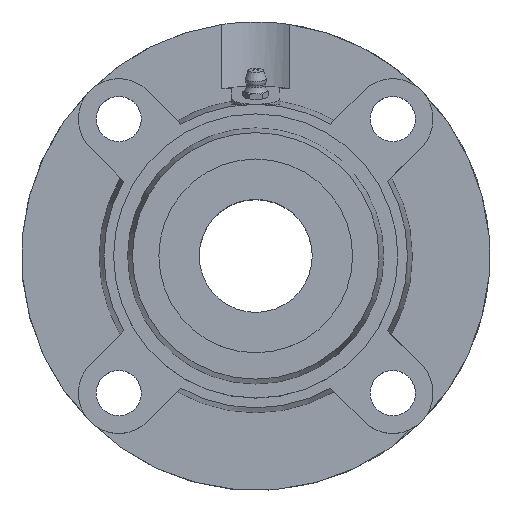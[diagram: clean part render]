
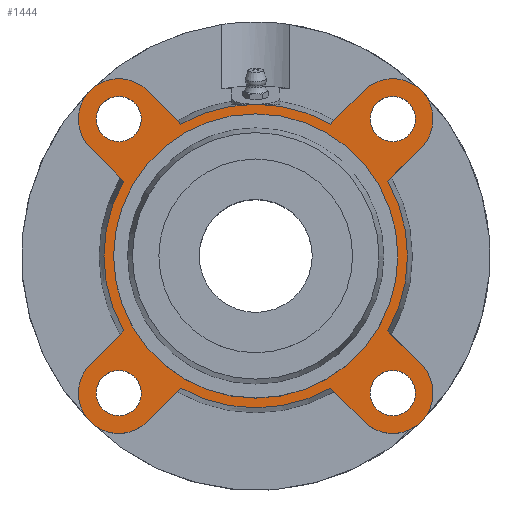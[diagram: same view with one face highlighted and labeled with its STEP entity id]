
A CAD part, top view. The second image highlights one B-rep face of the part: STEP entity #1444.
In plain terms, the highlighted planar face has unit normal (0, 0, 1).
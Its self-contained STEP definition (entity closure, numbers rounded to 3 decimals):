
#140=CARTESIAN_POINT('',(0.0,44.0,18.));
#141=VERTEX_POINT('',#140);
#142=CARTESIAN_POINT('',(0.0,0.,18.0));
#143=DIRECTION('',(0.0,0.0,-1.0));
#144=DIRECTION('',(0.0,1.0,0.0));
#145=AXIS2_PLACEMENT_3D('',#142,#143,#144);
#146=CIRCLE('',#145,44.0);
#147=EDGE_CURVE('',#141,#141,#146,.T.);
#277=CARTESIAN_POINT('',(-35.426,-42.426,18.));
#278=VERTEX_POINT('',#277);
#279=CARTESIAN_POINT('',(-42.426,-42.426,18.));
#280=DIRECTION('',(0.0,0.0,-1.0));
#281=DIRECTION('',(1.0,0.0,0.0));
#282=AXIS2_PLACEMENT_3D('',#279,#280,#281);
#283=CIRCLE('',#282,7.);
#284=EDGE_CURVE('',#278,#278,#283,.T.);
#305=CARTESIAN_POINT('',(-35.426,42.426,18.));
#306=VERTEX_POINT('',#305);
#307=CARTESIAN_POINT('',(-42.426,42.426,18.));
#308=DIRECTION('',(0.0,0.0,-1.0));
#309=DIRECTION('',(1.0,0.0,0.0));
#310=AXIS2_PLACEMENT_3D('',#307,#308,#309);
#311=CIRCLE('',#310,7.);
#312=EDGE_CURVE('',#306,#306,#311,.T.);
#333=CARTESIAN_POINT('',(49.426,42.426,18.));
#334=VERTEX_POINT('',#333);
#335=CARTESIAN_POINT('',(42.426,42.426,18.));
#336=DIRECTION('',(0.0,0.0,-1.0));
#337=DIRECTION('',(1.0,0.0,0.0));
#338=AXIS2_PLACEMENT_3D('',#335,#336,#337);
#339=CIRCLE('',#338,7.);
#340=EDGE_CURVE('',#334,#334,#339,.T.);
#361=CARTESIAN_POINT('',(49.426,-42.426,18.));
#362=VERTEX_POINT('',#361);
#363=CARTESIAN_POINT('',(42.426,-42.426,18.));
#364=DIRECTION('',(0.0,0.0,-1.0));
#365=DIRECTION('',(1.0,0.0,0.0));
#366=AXIS2_PLACEMENT_3D('',#363,#364,#365);
#367=CIRCLE('',#366,7.);
#368=EDGE_CURVE('',#362,#362,#367,.T.);
#742=CARTESIAN_POINT('',(0.,47.,18.0));
#743=VERTEX_POINT('',#742);
#900=CARTESIAN_POINT('',(-23.198,40.876,18.));
#901=VERTEX_POINT('',#900);
#915=CARTESIAN_POINT('',(0.0,0.,18.));
#916=DIRECTION('',(0.0,0.0,1.0));
#917=DIRECTION('',(0.0,-1.0,0.0));
#918=AXIS2_PLACEMENT_3D('',#915,#916,#917);
#919=CIRCLE('',#918,47.);
#920=EDGE_CURVE('',#743,#901,#919,.T.);
#930=CARTESIAN_POINT('',(-23.198,-40.876,18.));
#931=VERTEX_POINT('',#930);
#947=CARTESIAN_POINT('',(-33.588,-51.265,18.));
#948=VERTEX_POINT('',#947);
#949=CARTESIAN_POINT('',(-23.198,-40.876,18.));
#950=DIRECTION('',(-0.707,-0.707,0.0));
#951=VECTOR('',#950,14.693);
#952=LINE('',#949,#951);
#953=EDGE_CURVE('',#931,#948,#952,.T.);
#977=CARTESIAN_POINT('',(-40.876,23.198,18.));
#978=VERTEX_POINT('',#977);
#994=CARTESIAN_POINT('',(-51.265,33.588,18.));
#995=VERTEX_POINT('',#994);
#996=CARTESIAN_POINT('',(-40.876,23.198,18.));
#997=DIRECTION('',(-0.707,0.707,0.0));
#998=VECTOR('',#997,14.693);
#999=LINE('',#996,#998);
#1000=EDGE_CURVE('',#978,#995,#999,.T.);
#1024=CARTESIAN_POINT('',(40.876,-23.198,18.));
#1025=VERTEX_POINT('',#1024);
#1041=CARTESIAN_POINT('',(51.265,-33.588,18.));
#1042=VERTEX_POINT('',#1041);
#1043=CARTESIAN_POINT('',(40.876,-23.198,18.));
#1044=DIRECTION('',(0.707,-0.707,0.0));
#1045=VECTOR('',#1044,14.693);
#1046=LINE('',#1043,#1045);
#1047=EDGE_CURVE('',#1025,#1042,#1046,.T.);
#1071=CARTESIAN_POINT('',(23.198,40.876,18.));
#1072=VERTEX_POINT('',#1071);
#1086=CARTESIAN_POINT('',(33.588,51.265,18.));
#1087=VERTEX_POINT('',#1086);
#1088=CARTESIAN_POINT('',(23.198,40.876,18.));
#1089=DIRECTION('',(0.707,0.707,0.0));
#1090=VECTOR('',#1089,14.693);
#1091=LINE('',#1088,#1090);
#1092=EDGE_CURVE('',#1072,#1087,#1091,.T.);
#1111=CARTESIAN_POINT('',(40.876,23.198,18.));
#1112=VERTEX_POINT('',#1111);
#1134=CARTESIAN_POINT('',(51.265,33.588,18.));
#1135=VERTEX_POINT('',#1134);
#1142=CARTESIAN_POINT('',(51.265,33.588,18.));
#1143=DIRECTION('',(-0.707,-0.707,0.));
#1144=VECTOR('',#1143,14.693);
#1145=LINE('',#1142,#1144);
#1146=EDGE_CURVE('',#1135,#1112,#1145,.T.);
#1156=CARTESIAN_POINT('',(-51.265,-33.588,18.));
#1157=VERTEX_POINT('',#1156);
#1158=CARTESIAN_POINT('',(-42.426,-42.426,18.));
#1159=DIRECTION('',(0.0,0.0,-1.0));
#1160=DIRECTION('',(-0.707,0.707,0.0));
#1161=AXIS2_PLACEMENT_3D('',#1158,#1159,#1160);
#1162=CIRCLE('',#1161,12.5);
#1163=EDGE_CURVE('',#948,#1157,#1162,.T.);
#1198=CARTESIAN_POINT('',(-40.876,-23.198,18.0));
#1199=VERTEX_POINT('',#1198);
#1220=CARTESIAN_POINT('',(-51.265,-33.588,18.));
#1221=DIRECTION('',(0.707,0.707,0.));
#1222=VECTOR('',#1221,14.693);
#1223=LINE('',#1220,#1222);
#1224=EDGE_CURVE('',#1157,#1199,#1223,.T.);
#1234=CARTESIAN_POINT('',(-33.588,51.265,18.));
#1235=VERTEX_POINT('',#1234);
#1236=CARTESIAN_POINT('',(-42.426,42.426,18.));
#1237=DIRECTION('',(0.0,0.0,-1.0));
#1238=DIRECTION('',(0.707,0.707,0.0));
#1239=AXIS2_PLACEMENT_3D('',#1236,#1237,#1238);
#1240=CIRCLE('',#1239,12.5);
#1241=EDGE_CURVE('',#995,#1235,#1240,.T.);
#1269=CARTESIAN_POINT('',(-33.588,51.265,18.));
#1270=DIRECTION('',(0.707,-0.707,0.));
#1271=VECTOR('',#1270,14.693);
#1272=LINE('',#1269,#1271);
#1273=EDGE_CURVE('',#1235,#901,#1272,.T.);
#1283=CARTESIAN_POINT('',(33.588,-51.265,18.));
#1284=VERTEX_POINT('',#1283);
#1285=CARTESIAN_POINT('',(42.426,-42.426,18.));
#1286=DIRECTION('',(0.0,0.0,-1.0));
#1287=DIRECTION('',(-0.707,-0.707,0.0));
#1288=AXIS2_PLACEMENT_3D('',#1285,#1286,#1287);
#1289=CIRCLE('',#1288,12.5);
#1290=EDGE_CURVE('',#1042,#1284,#1289,.T.);
#1325=CARTESIAN_POINT('',(23.198,-40.876,18.));
#1326=VERTEX_POINT('',#1325);
#1347=CARTESIAN_POINT('',(33.588,-51.265,18.));
#1348=DIRECTION('',(-0.707,0.707,0.));
#1349=VECTOR('',#1348,14.693);
#1350=LINE('',#1347,#1349);
#1351=EDGE_CURVE('',#1284,#1326,#1350,.T.);
#1361=CARTESIAN_POINT('',(42.426,42.426,18.));
#1362=DIRECTION('',(0.0,0.0,-1.0));
#1363=DIRECTION('',(0.707,-0.707,0.0));
#1364=AXIS2_PLACEMENT_3D('',#1361,#1362,#1363);
#1365=CIRCLE('',#1364,12.5);
#1366=EDGE_CURVE('',#1087,#1135,#1365,.T.);
#1381=CARTESIAN_POINT('',(0.0,-23.5,18.0));
#1382=DIRECTION('',(0.0,0.0,1.0));
#1383=DIRECTION('',(1.0,0.0,0.0));
#1384=AXIS2_PLACEMENT_3D('',#1381,#1382,#1383);
#1385=PLANE('',#1384);
#1386=CARTESIAN_POINT('',(0.0,0.,18.));
#1387=DIRECTION('',(0.0,0.0,1.0));
#1388=DIRECTION('',(0.0,-1.0,0.0));
#1389=AXIS2_PLACEMENT_3D('',#1386,#1387,#1388);
#1390=CIRCLE('',#1389,47.);
#1391=EDGE_CURVE('',#931,#1326,#1390,.T.);
#1392=ORIENTED_EDGE('',*,*,#1391,.T.);
#1393=ORIENTED_EDGE('',*,*,#1351,.F.);
#1394=ORIENTED_EDGE('',*,*,#1290,.F.);
#1395=ORIENTED_EDGE('',*,*,#1047,.F.);
#1396=CARTESIAN_POINT('',(0.0,0.,18.));
#1397=DIRECTION('',(0.0,0.0,1.0));
#1398=DIRECTION('',(0.0,-1.0,0.0));
#1399=AXIS2_PLACEMENT_3D('',#1396,#1397,#1398);
#1400=CIRCLE('',#1399,47.);
#1401=EDGE_CURVE('',#1025,#1112,#1400,.T.);
#1402=ORIENTED_EDGE('',*,*,#1401,.T.);
#1403=ORIENTED_EDGE('',*,*,#1146,.F.);
#1404=ORIENTED_EDGE('',*,*,#1366,.F.);
#1405=ORIENTED_EDGE('',*,*,#1092,.F.);
#1406=CARTESIAN_POINT('',(0.0,0.,18.));
#1407=DIRECTION('',(0.0,0.0,1.0));
#1408=DIRECTION('',(0.0,-1.0,0.0));
#1409=AXIS2_PLACEMENT_3D('',#1406,#1407,#1408);
#1410=CIRCLE('',#1409,47.);
#1411=EDGE_CURVE('',#1072,#743,#1410,.T.);
#1412=ORIENTED_EDGE('',*,*,#1411,.T.);
#1413=ORIENTED_EDGE('',*,*,#920,.T.);
#1414=ORIENTED_EDGE('',*,*,#1273,.F.);
#1415=ORIENTED_EDGE('',*,*,#1241,.F.);
#1416=ORIENTED_EDGE('',*,*,#1000,.F.);
#1417=CARTESIAN_POINT('',(0.0,0.,18.));
#1418=DIRECTION('',(0.0,0.0,1.0));
#1419=DIRECTION('',(0.0,-1.0,0.0));
#1420=AXIS2_PLACEMENT_3D('',#1417,#1418,#1419);
#1421=CIRCLE('',#1420,47.);
#1422=EDGE_CURVE('',#978,#1199,#1421,.T.);
#1423=ORIENTED_EDGE('',*,*,#1422,.T.);
#1424=ORIENTED_EDGE('',*,*,#1224,.F.);
#1425=ORIENTED_EDGE('',*,*,#1163,.F.);
#1426=ORIENTED_EDGE('',*,*,#953,.F.);
#1427=EDGE_LOOP('',(#1392,#1393,#1394,#1395,#1402,#1403,#1404,#1405,#1412,#1413,#1414,#1415,#1416,#1423,#1424,#1425,#1426));
#1428=FACE_OUTER_BOUND('',#1427,.T.);
#1429=ORIENTED_EDGE('',*,*,#147,.T.);
#1430=EDGE_LOOP('',(#1429));
#1431=FACE_BOUND('',#1430,.T.);
#1432=ORIENTED_EDGE('',*,*,#284,.T.);
#1433=EDGE_LOOP('',(#1432));
#1434=FACE_BOUND('',#1433,.T.);
#1435=ORIENTED_EDGE('',*,*,#312,.T.);
#1436=EDGE_LOOP('',(#1435));
#1437=FACE_BOUND('',#1436,.T.);
#1438=ORIENTED_EDGE('',*,*,#340,.T.);
#1439=EDGE_LOOP('',(#1438));
#1440=FACE_BOUND('',#1439,.T.);
#1441=ORIENTED_EDGE('',*,*,#368,.T.);
#1442=EDGE_LOOP('',(#1441));
#1443=FACE_BOUND('',#1442,.T.);
#1444=ADVANCED_FACE('',(#1428,#1431,#1434,#1437,#1440,#1443),#1385,.T.);
